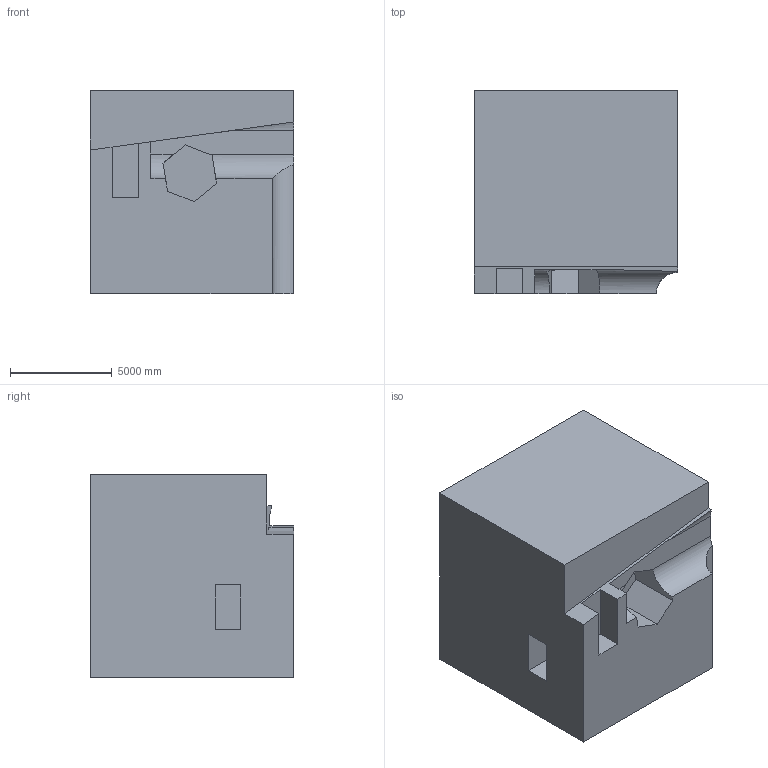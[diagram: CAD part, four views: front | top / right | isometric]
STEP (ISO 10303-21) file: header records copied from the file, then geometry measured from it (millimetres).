
FILE_DESCRIPTION (( 'STEP AP203' ), '1' );
FILE_NAME ('624.STEP', '2022-07-29T12:09:35', ( 'user' ), ( '' ), 'SwSTEP 2.0', 'SolidWorks 2021', '' );
FILE_SCHEMA (( 'CONFIG_CONTROL_DESIGN' ));
Length unit declared in the file: centimetre
Products named in the file (1): 624
Bounding box: 10000 x 10000 x 10000 mm (x, y, z)
Volume: 909483746007.8 mm3; surface area: 658639887 mm2
Topology: 1 solids, 1 shells, 37 faces, 99 edges, 66 vertices
Faces by surface type: plane 33, cylinder 4
Entity records: 1295 total; most frequent: CARTESIAN_POINT 301, ORIENTED_EDGE 198, DIRECTION 173, EDGE_CURVE 99, LINE 89, VECTOR 89, VERTEX_POINT 66, AXIS2_PLACEMENT_3D 42
